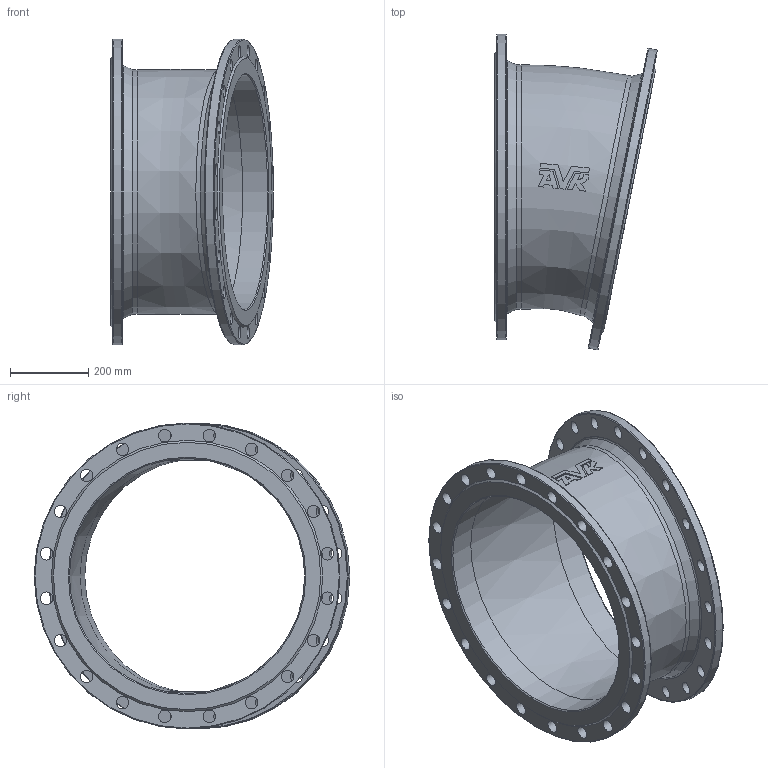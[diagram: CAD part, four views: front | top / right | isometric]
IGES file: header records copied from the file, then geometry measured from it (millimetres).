
Start section: SolidWorks IGES file using analytic representation for surfaces
Global section: file name: \\avksan2\techshare\PBM outline export from Enovia\O_712_0110_DN600_0X_REV01.igs; native system: SolidWorks 2022; preprocessor: SolidWorks 2022; author: pbm; date: 240815.111309; units: millimetre
Bounding box: 415.45 x 805.09 x 780 mm (x, y, z)
Surface area: 2067894.5 mm2 (no closed solid volume)
Topology: 0 solids, 0 shells, 107 faces, 540 edges, 480 vertices
Faces by surface type: revolution 66, bspline 41
